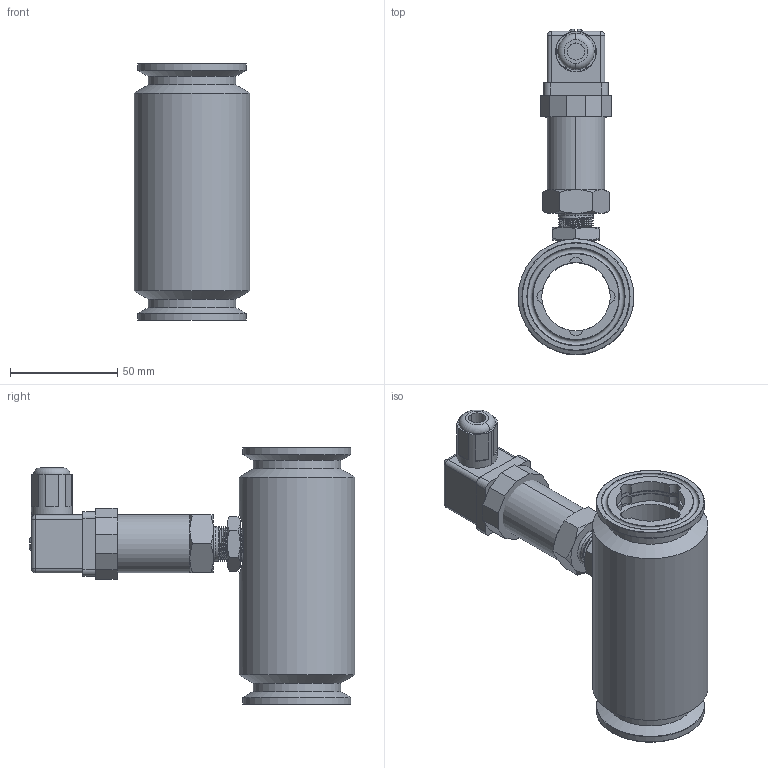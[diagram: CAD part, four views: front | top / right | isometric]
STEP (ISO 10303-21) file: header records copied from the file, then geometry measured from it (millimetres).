
FILE_DESCRIPTION( (''), '2;1');
FILE_NAME( 'QTKB_DN32_tri-clamp.step', '2024-02-19T10:36:53+08:00', (''), (''), '', '', '');
FILE_SCHEMA (('AUTOMOTIVE_DESIGN { 1 0 10303 214 3 1 1 1 }'));
Length unit declared in the file: millimetre
Products named in the file (1): QTKB DN32_tri-clamp
Bounding box: 54 x 152 x 120 mm (x, y, z)
Volume: 223976.3 mm3; surface area: 58646.5 mm2
Topology: 5 solids, 6 shells, 433 faces, 1139 edges, 743 vertices
Faces by surface type: plane 262, cylinder 92, cone 43, bspline 18, torus 14, sphere 4
Full cylindrical faces by diameter (mm): 16.5 x1, 32 x1, 36.5 x2, 38 x2, 41 x2, 50.5 x2, 54 x1
Entity records: 16271 total; most frequent: CARTESIAN_POINT 5751, ORIENTED_EDGE 2196, DIRECTION 2077, EDGE_CURVE 1098, VERTEX_POINT 727, AXIS2_PLACEMENT_3D 709, LINE 659, VECTOR 659
